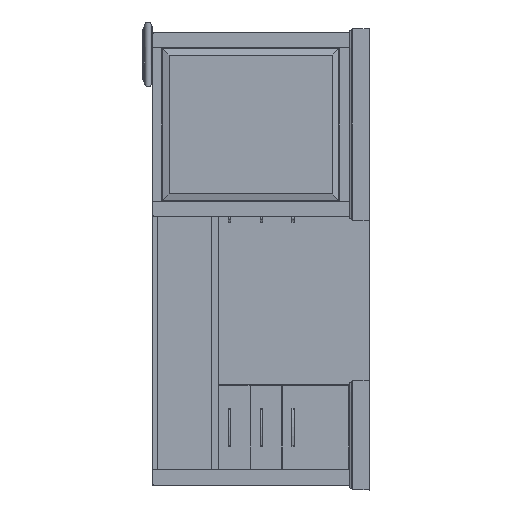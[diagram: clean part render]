
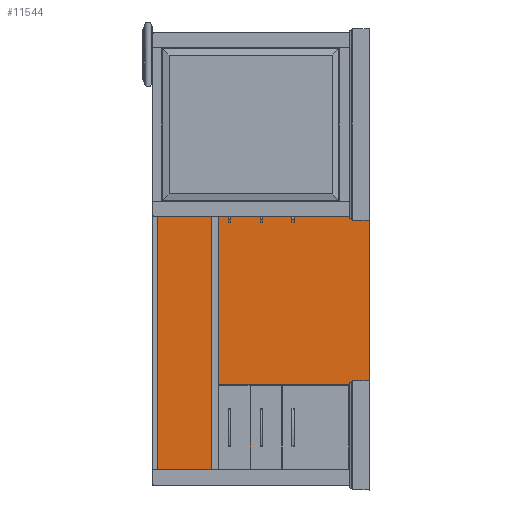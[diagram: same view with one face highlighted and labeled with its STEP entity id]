
A CAD part, left-side view. The second image highlights one B-rep face of the part: STEP entity #11544.
In plain terms, the highlighted planar face has unit normal (-1, 0, 0).
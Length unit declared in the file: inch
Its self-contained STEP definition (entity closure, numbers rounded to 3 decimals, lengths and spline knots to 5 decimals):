
#2064=FACE_OUTER_BOUND('',#2718,.T.);
#2718=EDGE_LOOP('',(#8716,#8717,#8718,#8719));
#3546=LINE('',#16697,#4816);
#3550=LINE('',#16705,#4820);
#3553=LINE('',#16711,#4823);
#3556=LINE('',#16716,#4826);
#4816=VECTOR('',#13820,0.3937);
#4820=VECTOR('',#13826,0.3937);
#4823=VECTOR('',#13831,0.3937);
#4826=VECTOR('',#13836,0.3937);
#5962=VERTEX_POINT('',#16695);
#5963=VERTEX_POINT('',#16696);
#5966=VERTEX_POINT('',#16704);
#5968=VERTEX_POINT('',#16710);
#6982=EDGE_CURVE('',#5962,#5963,#3546,.T.);
#6986=EDGE_CURVE('',#5963,#5966,#3550,.T.);
#6989=EDGE_CURVE('',#5966,#5968,#3553,.T.);
#6992=EDGE_CURVE('',#5968,#5962,#3556,.T.);
#8716=ORIENTED_EDGE('',*,*,#6992,.T.);
#8717=ORIENTED_EDGE('',*,*,#6982,.T.);
#8718=ORIENTED_EDGE('',*,*,#6986,.T.);
#8719=ORIENTED_EDGE('',*,*,#6989,.T.);
#10946=PLANE('',#12535);
#11544=ADVANCED_FACE('',(#2064),#10946,.T.);
#12535=AXIS2_PLACEMENT_3D('',#16718,#13838,#13839);
#13820=DIRECTION('',(0.,-1.,0.));
#13826=DIRECTION('',(0.,0.,1.));
#13831=DIRECTION('',(0.,1.,0.));
#13836=DIRECTION('',(0.,0.,-1.));
#13838=DIRECTION('center_axis',(-1.,0.,0.));
#13839=DIRECTION('ref_axis',(0.,0.,1.));
#16695=CARTESIAN_POINT('',(22.,0.,-0.75));
#16696=CARTESIAN_POINT('',(22.,-39.25,-0.75));
#16697=CARTESIAN_POINT('',(22.,0.,-0.75));
#16704=CARTESIAN_POINT('',(22.,-39.25,80.));
#16705=CARTESIAN_POINT('',(22.,-39.25,-0.75));
#16710=CARTESIAN_POINT('',(22.,0.,80.));
#16711=CARTESIAN_POINT('',(22.,-39.25,80.));
#16716=CARTESIAN_POINT('',(22.,0.,80.));
#16718=CARTESIAN_POINT('Origin',(22.,-19.625,39.625));
